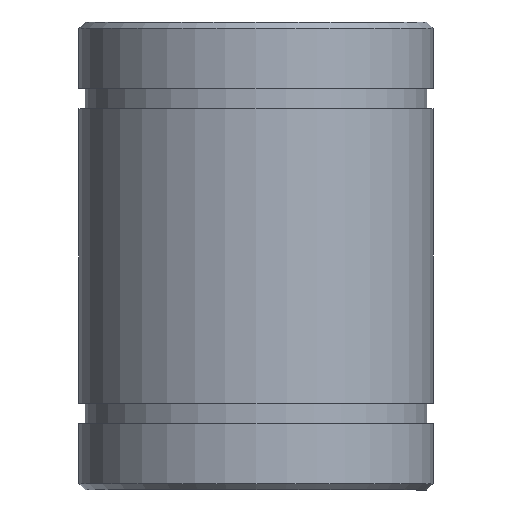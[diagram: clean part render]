
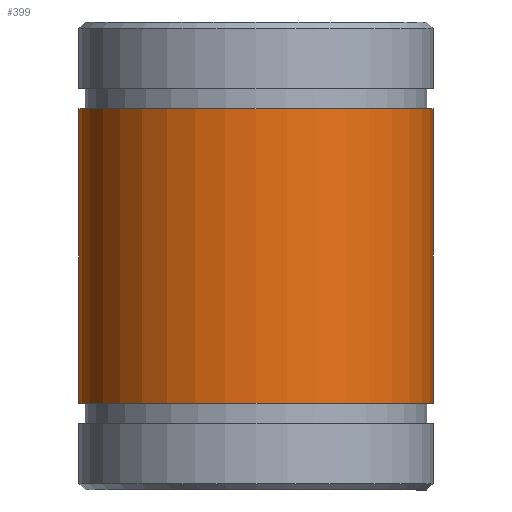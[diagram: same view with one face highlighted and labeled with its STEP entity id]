
A CAD part, left-side view. The second image highlights one B-rep face of the part: STEP entity #399.
In plain terms, the highlighted cylindrical face has radius 14 mm (diameter 28 mm), a partial arc.
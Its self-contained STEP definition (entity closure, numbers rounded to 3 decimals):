
#39 = DIRECTION ( 'NONE',  ( 0., 0., -1. ) ) ;
#42 = VERTEX_POINT ( 'NONE', #161 ) ;
#50 = DIRECTION ( 'NONE',  ( 0., 1., 0. ) ) ;
#87 = ORIENTED_EDGE ( 'NONE', *, *, #360, .T. ) ;
#99 = CIRCLE ( 'NONE', #402, 14. ) ;
#106 = FACE_OUTER_BOUND ( 'NONE', #611, .T. ) ;
#143 = CARTESIAN_POINT ( 'NONE',  ( 0., 18.5, -11.65 ) ) ;
#153 = LINE ( 'NONE', #541, #592 ) ;
#161 = CARTESIAN_POINT ( 'NONE',  ( 0., 32.5, -11.65 ) ) ;
#196 = EDGE_CURVE ( 'NONE', #294, #42, #99, .T. ) ;
#202 = AXIS2_PLACEMENT_3D ( 'NONE', #552, #392, #385 ) ;
#205 = ORIENTED_EDGE ( 'NONE', *, *, #196, .F. ) ;
#217 = EDGE_CURVE ( 'NONE', #633, #540, #527, .T. ) ;
#294 = VERTEX_POINT ( 'NONE', #648 ) ;
#296 = CARTESIAN_POINT ( 'NONE',  ( 0., 32.5, -18.5 ) ) ;
#360 = EDGE_CURVE ( 'NONE', #540, #42, #463, .T. ) ;
#382 = ORIENTED_EDGE ( 'NONE', *, *, #634, .F. ) ;
#385 = DIRECTION ( 'NONE',  ( 0., 1., 0. ) ) ;
#392 = DIRECTION ( 'NONE',  ( 0., 0., -1. ) ) ;
#399 = ADVANCED_FACE ( 'NONE', ( #106 ), #416, .T. ) ;
#402 = AXIS2_PLACEMENT_3D ( 'NONE', #143, #494, #600 ) ;
#412 = VECTOR ( 'NONE', #507, 1000. ) ;
#416 = CYLINDRICAL_SURFACE ( 'NONE', #669, 14. ) ;
#463 = LINE ( 'NONE', #296, #412 ) ;
#494 = DIRECTION ( 'NONE',  ( 0., 0., -1. ) ) ;
#507 = DIRECTION ( 'NONE',  ( 0., 0., -1. ) ) ;
#519 = CARTESIAN_POINT ( 'NONE',  ( 0., 32.5, 11.65 ) ) ;
#527 = CIRCLE ( 'NONE', #202, 14. ) ;
#540 = VERTEX_POINT ( 'NONE', #519 ) ;
#541 = CARTESIAN_POINT ( 'NONE',  ( 0., 4.5, -18.5 ) ) ;
#552 = CARTESIAN_POINT ( 'NONE',  ( 0., 18.5, 11.65 ) ) ;
#590 = DIRECTION ( 'NONE',  ( 0., 0., -1. ) ) ;
#592 = VECTOR ( 'NONE', #590, 1000. ) ;
#600 = DIRECTION ( 'NONE',  ( 0., 1., 0. ) ) ;
#605 = ORIENTED_EDGE ( 'NONE', *, *, #217, .T. ) ;
#610 = CARTESIAN_POINT ( 'NONE',  ( 0., 18.5, -18.5 ) ) ;
#611 = EDGE_LOOP ( 'NONE', ( #382, #605, #87, #205 ) ) ;
#612 = CARTESIAN_POINT ( 'NONE',  ( 0., 4.5, 11.65 ) ) ;
#633 = VERTEX_POINT ( 'NONE', #612 ) ;
#634 = EDGE_CURVE ( 'NONE', #633, #294, #153, .T. ) ;
#648 = CARTESIAN_POINT ( 'NONE',  ( 0., 4.5, -11.65 ) ) ;
#669 = AXIS2_PLACEMENT_3D ( 'NONE', #610, #39, #50 ) ;
